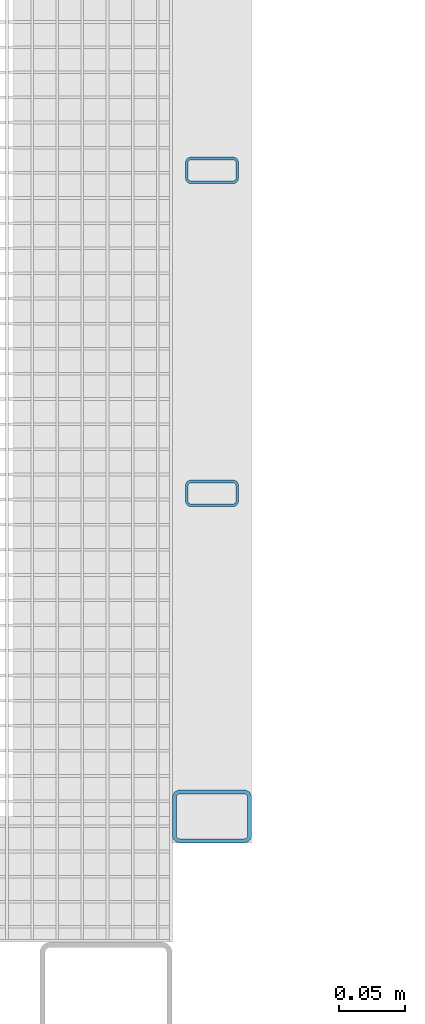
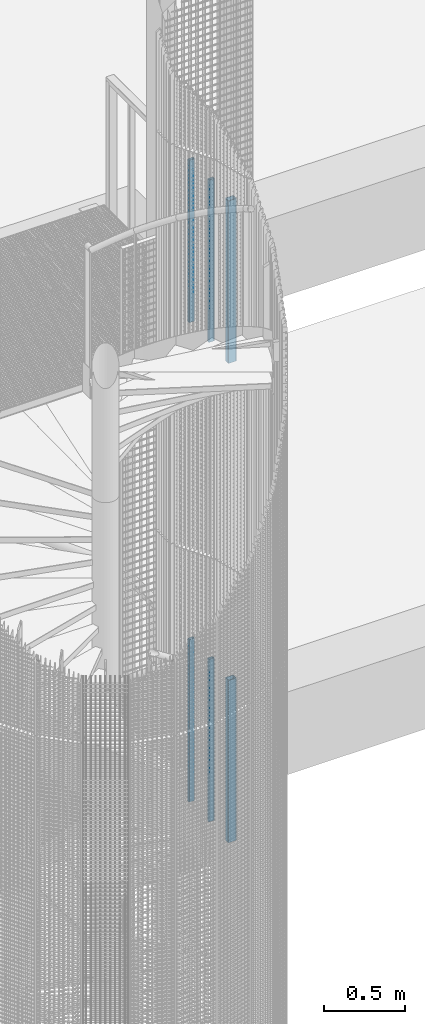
# One storey, part 72 of 1148: 6 columns, 6 elements without a shape of their own.
"""IFC2X3 building model written with IfcOpenShell, lengths in millimetres."""

import ifcopenshell
import ifcopenshell.guid

model = None  # the IFC model being written
_history = None  # IfcOwnerHistory: only IFC2X3 demands one
_inside = {}  # id of a spatial element -> (the spatial element, [elements in it])
_under = {}  # id of a project, library or spatial element -> (it, [spatial elements below it])
_declared = {}  # id of a project -> (the project, [libraries it declares])
_typed = {}  # id of a type object -> (the type object, [elements of that type])
_made_of = {}  # id of a material, layer set ... -> (it, [elements and type objects made of it])


def new_model(schema):
    """Start an empty IFC model of exactly this schema.

    Asked for "IFC4X3", IfcOpenShell would pick the latest addendum, in which some entities
    have other attributes; the version numbers below select the first issue.
    IFC2X3 requires an IfcOwnerHistory on every rooted entity: one is made here for all.
    """
    global model, _history
    if schema == "IFC4X3":
        model = ifcopenshell.file(schema_version=(4, 3, 0, 0))
    else:
        model = ifcopenshell.file(schema=schema)
    _inside.clear()
    _under.clear()
    _declared.clear()
    _typed.clear()
    _made_of.clear()
    _history = None
    if model.schema == "IFC2X3":
        org = make("IfcOrganization", Name="unknown")
        user = make(
            "IfcPersonAndOrganization",
            ThePerson=make("IfcPerson", FamilyName="unknown"),
            TheOrganization=org,
        )
        app = make(
            "IfcApplication",
            ApplicationDeveloper=org,
            Version="unknown",
            ApplicationFullName="unknown",
            ApplicationIdentifier="unknown",
        )
        _history = make(
            "IfcOwnerHistory",
            OwningUser=user,
            OwningApplication=app,
            ChangeAction="ADDED",
            CreationDate=0,
        )
    return model


def make(cls, **values):
    """One entity of the class cls with the attributes given. An attribute that is None is left unset."""
    return model.create_entity(
        cls, **{name: value for name, value in values.items() if value is not None}
    )


def rooted(cls, **values):
    """An entity with a GlobalId (a new one), such as an element, a storey or a relation."""
    return make(cls, GlobalId=ifcopenshell.guid.new(), OwnerHistory=_history, **values)


def si_unit(unit_type, name, prefix=None):
    """IfcSIUnit, for example si_unit("LENGTHUNIT", "METRE", prefix="MILLI")."""
    return make("IfcSIUnit", UnitType=unit_type, Prefix=prefix, Name=name)


def assignment(units):
    """IfcUnitAssignment: the units of a project."""
    return None if units is None else make("IfcUnitAssignment", Units=units)


def point(xyz):
    """IfcCartesianPoint."""
    return None if xyz is None else make("IfcCartesianPoint", Coordinates=xyz)


def direction(xyz):
    """IfcDirection."""
    return None if xyz is None else make("IfcDirection", DirectionRatios=xyz)


def frame(location, z_axis=None, x_axis=None):
    """IfcAxis2Placement3D, a coordinate frame: its origin and axes. An axis left out is left unset."""
    return make(
        "IfcAxis2Placement3D",
        Location=point(location),
        Axis=direction(z_axis),
        RefDirection=direction(x_axis),
    )


def frame_2d(location, x_axis=None):
    """IfcAxis2Placement2D, a coordinate frame in the plane: its origin and x axis."""
    return make(
        "IfcAxis2Placement2D", Location=point(location), RefDirection=direction(x_axis)
    )


def origin_with_axes():
    """The frame at (0, 0, 0) with the z axis (0, 0, 1) and the x axis (1, 0, 0) written out."""
    return frame((0.0, 0.0, 0.0), z_axis=(0.0, 0.0, 1.0), x_axis=(1.0, 0.0, 0.0))


def origin_2d_with_axis():
    """The frame at (0, 0) in the plane with the x axis (1, 0) written out."""
    return frame_2d((0.0, 0.0), x_axis=(1.0, 0.0))


def place(relative_to, where):
    """IfcLocalPlacement: puts the frame where relative to a parent placement (None: the world)."""
    return make(
        "IfcLocalPlacement", PlacementRelTo=relative_to, RelativePlacement=where
    )


def context(
    kind, dimensions, precision=None, world=None, true_north=None, identifier=None
):
    """IfcGeometricRepresentationContext, for example the 3D "Model" context."""
    return make(
        "IfcGeometricRepresentationContext",
        ContextIdentifier=identifier,
        ContextType=kind,
        CoordinateSpaceDimension=dimensions,
        Precision=precision,
        WorldCoordinateSystem=world,
        TrueNorth=true_north,
    )


def subcontext(parent, identifier, kind, view, scale=None):
    """IfcGeometricRepresentationSubContext, for example "Body" below "Model"."""
    return make(
        "IfcGeometricRepresentationSubContext",
        ContextIdentifier=identifier,
        ContextType=kind,
        ParentContext=parent,
        TargetScale=scale,
        TargetView=view,
    )


def project(units=None, contexts=None):
    """IfcProject with its units and contexts."""
    return rooted(
        "IfcProject",
        Name="project",
        RepresentationContexts=contexts,
        UnitsInContext=assignment(units),
    )


def spatial(cls, under=None, at=None, **own):
    """A site, building, storey or space (cls), placed at a placement, below another one or the project."""
    s = rooted(cls, ObjectPlacement=at, **own)
    if under is not None:
        _under.setdefault(under.id(), (under, []))[1].append(s)
    return s


def profile(cls, at=None, kind="AREA", **sizes):
    """A parametric profile (cls). Its sizes go by their IFC names, for example OverallWidth=200.0."""
    return make(cls, ProfileType=kind, Position=at, **sizes)


def hollow_rectangle(**sizes):
    """IfcRectangleHollowProfileDef."""
    return profile("IfcRectangleHollowProfileDef", **sizes)


def extrude(swept, where, along, depth):
    """IfcExtrudedAreaSolid: the profile swept, set in the frame where, extruded along a direction by depth."""
    return make(
        "IfcExtrudedAreaSolid",
        SweptArea=swept,
        Position=where,
        ExtrudedDirection=direction(along),
        Depth=depth,
    )


def shape(context_of_items, identifier, shape_type, items):
    """IfcShapeRepresentation: the items that make up one representation, for example the "Body"."""
    return make(
        "IfcShapeRepresentation",
        ContextOfItems=context_of_items,
        RepresentationIdentifier=identifier,
        RepresentationType=shape_type,
        Items=items,
    )


def material(Name=None, Category=None):
    """IfcMaterial."""
    return make("IfcMaterial", Name=Name, Category=Category)


def made_of(thing, what):
    """Note that an element or type object is made of a material, layer set ...; save() writes the relation."""
    if what is not None:
        _made_of.setdefault(what.id(), (what, []))[1].append(thing)
    return thing


def type_object(cls, material=None, **own):
    """A type object (cls), such as IfcWallType, which elements share."""
    return made_of(rooted(cls, **own), material)


def element(
    cls,
    number,
    at=None,
    inside=None,
    cuts=None,
    type_object=None,
    material=None,
    context=None,
    identifier="Body",
    shape_type=None,
    held_by="IfcProductDefinitionShape",
    body=None,
    shapes=None,
    **own,
):
    """One element of the class cls, such as IfcWall. Its Tag is "e" and its number.

    at: its placement. inside: the storey or other place that contains it. cuts: it is an
    opening in that element (IfcRelVoidsElement). A single representation is given by context,
    identifier, shape_type and body (its items); several are given by shapes. held_by: the class
    of the entity that holds the representations. save() writes the other relations.
    """
    e = rooted(cls, Tag="e%d" % number, ObjectPlacement=at, **own)
    if body is not None:
        shapes = [shape(context, identifier, shape_type, body)]
    if shapes is not None:
        e.Representation = make(held_by, Representations=shapes)
    if inside is not None:
        _inside.setdefault(inside.id(), (inside, []))[1].append(e)
    if cuts is not None:
        rooted(
            "IfcRelVoidsElement", RelatingBuildingElement=cuts, RelatedOpeningElement=e
        )
    if type_object is not None:
        _typed.setdefault(type_object.id(), (type_object, []))[1].append(e)
    return made_of(e, material)


def aggregate(whole, parts):
    """IfcRelAggregates: a whole, such as a stair, and the parts it consists of."""
    return rooted("IfcRelAggregates", RelatingObject=whole, RelatedObjects=parts)


def save(model, path):
    """Write the relations noted so far, then the file.

    IfcRelAggregates (storeys below a building ...), IfcRelContainedInSpatialStructure (elements
    in a storey), IfcRelDefinesByType, IfcRelAssociatesMaterial and IfcRelDeclares: one each for
    every whole, place, type object, material and project.
    """
    for whole, parts in _under.values():
        aggregate(whole, parts)
    for where, things in _inside.values():
        rooted(
            "IfcRelContainedInSpatialStructure",
            RelatedElements=things,
            RelatingStructure=where,
        )
    for kind, things in _typed.values():
        rooted("IfcRelDefinesByType", RelatedObjects=things, RelatingType=kind)
    for what, things in _made_of.values():
        rooted("IfcRelAssociatesMaterial", RelatedObjects=things, RelatingMaterial=what)
    for by, libraries in _declared.values():
        rooted("IfcRelDeclares", RelatingContext=by, RelatedDefinitions=libraries)
    model.write(path)


model = new_model("IFC2X3")

# Units and contexts
model_context = context("Model", 3, precision=1e-05, world=origin_with_axes())
body_context = subcontext(model_context, "Body", "Model", "MODEL_VIEW")
ifc_project = project(units=[si_unit("LENGTHUNIT", "METRE", prefix="MILLI"), si_unit("AREAUNIT", "SQUARE_METRE"), si_unit("VOLUMEUNIT", "CUBIC_METRE"), si_unit("MASSUNIT", "GRAM", prefix="KILO"), si_unit("TIMEUNIT", "SECOND"), si_unit("PLANEANGLEUNIT", "RADIAN"), si_unit("SOLIDANGLEUNIT", "STERADIAN"), si_unit("THERMODYNAMICTEMPERATUREUNIT", "DEGREE_CELSIUS"), si_unit("LUMINOUSINTENSITYUNIT", "LUMEN")], contexts=[model_context])

# Site, building, storey
site_placement = place(None, origin_with_axes())
site = spatial("IfcSite", under=ifc_project, at=site_placement, Name="Undefined", CompositionType="ELEMENT")
building_placement = place(site_placement, origin_with_axes())
building = spatial("IfcBuilding", under=site, at=building_placement, Name="Undefined", CompositionType="ELEMENT")
storey_placement = place(building_placement, origin_with_axes())
storey = spatial("IfcBuildingStorey", under=building, at=storey_placement, Name="Undefined", CompositionType="ELEMENT", Elevation=0.0)

# Assembly, column
assembly_1_placement = place(storey_placement, origin_with_axes())
assembly_1 = element("IfcElementAssembly", 1, at=assembly_1_placement, inside=storey, Name="STANCHION", AssemblyPlace="NOTDEFINED", PredefinedType="NOTDEFINED")
ifc_material = material(Name="Undefined/FE510D")
column_type_1 = type_object("IfcColumnType", Name="TUBE-R-40*20*2", PredefinedType="NOTDEFINED")
column_1_placement = place(assembly_1_placement, frame((23180.0682041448, 1683.34979617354, 9820.0), z_axis=(0.0, 0.0, 1.0), x_axis=(0.999999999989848, 4.50600000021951e-06, 0.0)))
column_1 = element("IfcColumn", 2, at=column_1_placement, type_object=column_type_1, material=ifc_material, Name="STANCHION", context=body_context, shape_type="SweptSolid", body=[
    extrude(hollow_rectangle(XDim=20.0, YDim=40.0, WallThickness=2.0, InnerFilletRadius=2.0, OuterFilletRadius=4.0, at=origin_2d_with_axis()), frame((0.0, 0.0, 1219.99999999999), z_axis=(0.0, 0.0, -1.0), x_axis=(0.0, 1.0, 0.0)), (0.0, 0.0, 1.0), 1220.0),
])
aggregate(assembly_1, [column_1])

assembly_2_placement = place(storey_placement, origin_with_axes())
assembly_2 = element("IfcElementAssembly", 3, at=assembly_2_placement, inside=storey, Name="STANCHION", AssemblyPlace="NOTDEFINED", PredefinedType="NOTDEFINED")
column_2_placement = place(assembly_2_placement, frame((23180.0693043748, 1439.17979617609, 9820.0), z_axis=(0.0, 0.0, 1.0), x_axis=(0.999999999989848, 4.50600000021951e-06, 0.0)))
column_2 = element("IfcColumn", 4, at=column_2_placement, type_object=column_type_1, material=ifc_material, Name="STANCHION", context=body_context, shape_type="SweptSolid", body=[
    extrude(hollow_rectangle(XDim=20.0, YDim=40.0, WallThickness=2.0, InnerFilletRadius=2.0, OuterFilletRadius=4.0, at=origin_2d_with_axis()), frame((0.0, 0.0, 1219.99999999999), z_axis=(0.0, 0.0, -1.0), x_axis=(0.0, 1.0, 0.0)), (0.0, 0.0, 1.0), 1220.0),
])
aggregate(assembly_2, [column_2])

assembly_3_placement = place(storey_placement, origin_with_axes())
assembly_3 = element("IfcElementAssembly", 5, at=assembly_3_placement, inside=storey, Name="STANCHION", AssemblyPlace="NOTDEFINED", PredefinedType="NOTDEFINED")
column_3_placement = place(assembly_3_placement, frame((23180.0682041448, 1683.34979617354, 6220.0), z_axis=(0.0, 0.0, 1.0), x_axis=(0.999999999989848, 4.50600000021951e-06, 0.0)))
column_3 = element("IfcColumn", 6, at=column_3_placement, type_object=column_type_1, material=ifc_material, Name="STANCHION", context=body_context, shape_type="SweptSolid", body=[
    extrude(hollow_rectangle(XDim=20.0, YDim=40.0, WallThickness=2.0, InnerFilletRadius=2.0, OuterFilletRadius=4.0, at=origin_2d_with_axis()), frame((0.0, 0.0, 1219.99999999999), z_axis=(0.0, 0.0, -1.0), x_axis=(0.0, 1.0, 0.0)), (0.0, 0.0, 1.0), 1220.0),
])
aggregate(assembly_3, [column_3])

assembly_4_placement = place(storey_placement, origin_with_axes())
assembly_4 = element("IfcElementAssembly", 7, at=assembly_4_placement, inside=storey, Name="STANCHION", AssemblyPlace="NOTDEFINED", PredefinedType="NOTDEFINED")
column_4_placement = place(assembly_4_placement, frame((23180.0693043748, 1439.17979617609, 6220.0), z_axis=(0.0, 0.0, 1.0), x_axis=(0.999999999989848, 4.50600000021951e-06, 0.0)))
column_4 = element("IfcColumn", 8, at=column_4_placement, type_object=column_type_1, material=ifc_material, Name="STANCHION", context=body_context, shape_type="SweptSolid", body=[
    extrude(hollow_rectangle(XDim=20.0, YDim=40.0, WallThickness=2.0, InnerFilletRadius=2.0, OuterFilletRadius=4.0, at=origin_2d_with_axis()), frame((0.0, 0.0, 1219.99999999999), z_axis=(0.0, 0.0, -1.0), x_axis=(0.0, 1.0, 0.0)), (0.0, 0.0, 1.0), 1220.0),
])
aggregate(assembly_4, [column_4])

assembly_5_placement = place(storey_placement, origin_with_axes())
assembly_5 = element("IfcElementAssembly", 9, at=assembly_5_placement, inside=storey, Name="STANCHION", AssemblyPlace="NOTDEFINED", PredefinedType="NOTDEFINED")
column_type_2 = type_object("IfcColumnType", Name="TUBE-R-60*40*3", PredefinedType="NOTDEFINED")
column_5_placement = place(assembly_5_placement, frame((23180.0704345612, 1195.01007484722, 9820.0), z_axis=(0.0, 0.0, 1.0), x_axis=(0.999999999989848, 4.50600000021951e-06, 0.0)))
column_5 = element("IfcColumn", 10, at=column_5_placement, type_object=column_type_2, material=ifc_material, Name="STANCHION", context=body_context, shape_type="SweptSolid", body=[
    extrude(hollow_rectangle(XDim=40.0, YDim=60.0, WallThickness=3.0, InnerFilletRadius=3.0, OuterFilletRadius=6.0, at=origin_2d_with_axis()), frame((0.0, 0.0, 1219.99999999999), z_axis=(0.0, 0.0, -1.0), x_axis=(0.0, 1.0, 0.0)), (0.0, 0.0, 1.0), 1220.0),
])
aggregate(assembly_5, [column_5])

assembly_6_placement = place(storey_placement, origin_with_axes())
assembly_6 = element("IfcElementAssembly", 11, at=assembly_6_placement, inside=storey, Name="STANCHION", AssemblyPlace="NOTDEFINED", PredefinedType="NOTDEFINED")
column_6_placement = place(assembly_6_placement, frame((23180.0704345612, 1195.01007484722, 6220.0), z_axis=(0.0, 0.0, 1.0), x_axis=(0.999999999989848, 4.50600000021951e-06, 0.0)))
column_6 = element("IfcColumn", 12, at=column_6_placement, type_object=column_type_2, material=ifc_material, Name="STANCHION", context=body_context, shape_type="SweptSolid", body=[
    extrude(hollow_rectangle(XDim=40.0, YDim=60.0, WallThickness=3.0, InnerFilletRadius=3.0, OuterFilletRadius=6.0, at=origin_2d_with_axis()), frame((0.0, 0.0, 1219.99999999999), z_axis=(0.0, 0.0, -1.0), x_axis=(0.0, 1.0, 0.0)), (0.0, 0.0, 1.0), 1220.0),
])
aggregate(assembly_6, [column_6])

save(model, "model.ifc")
